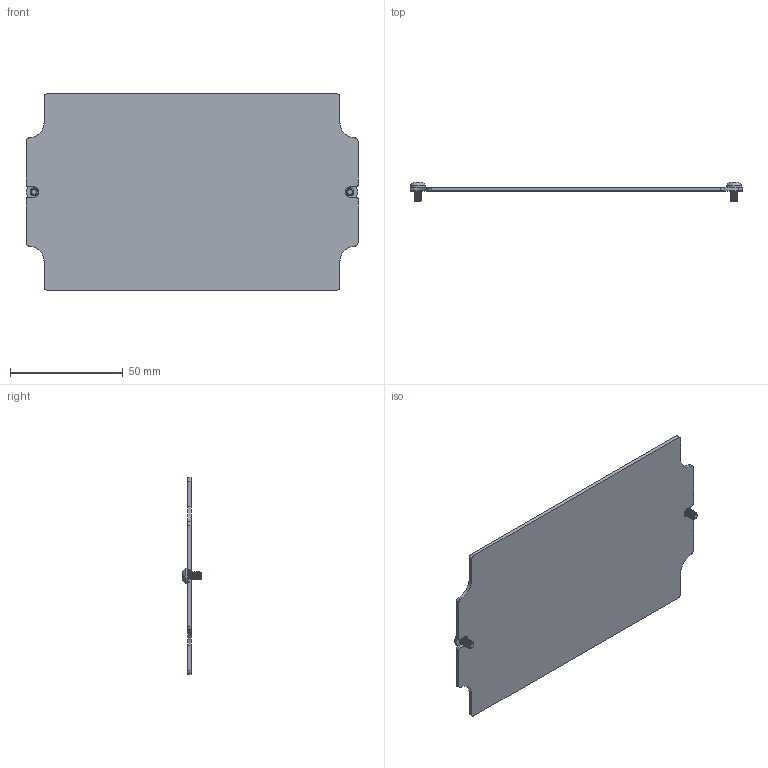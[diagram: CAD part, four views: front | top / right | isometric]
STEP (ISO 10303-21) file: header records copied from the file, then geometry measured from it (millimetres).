
FILE_DESCRIPTION (( 'STEP AP214' ), '1' );
FILE_NAME ('AN-16K.step', '2026-09-17T19:30:13', ( '' ), ( '' ), 'SwSTEP 2.0', 'SolidWorks 2026', '' );
FILE_SCHEMA (( 'AUTOMOTIVE_DESIGN' ));
Length unit declared in the file: inch
Products named in the file (3): SCREWS-050; AN-16-P_DEFAULT; AN-16K
Assembly tree (3 placements, depth 2):
  AN-16K
    AN-16-P_DEFAULT
    SCREWS-050  x2
Bounding box: 147 x 8.8 x 87 mm (x, y, z)
Volume: 18732.2 mm3; surface area: 25418.6 mm2
Topology: 3 solids, 3 shells, 704 faces, 1710 edges, 1010 vertices
Faces by surface type: bspline 368, cylinder 174, plane 66, sphere 48, cone 40, torus 8
Entity records: 17500 total; most frequent: CARTESIAN_POINT 10083, ORIENTED_EDGE 1802, DIRECTION 1065, EDGE_CURVE 901, VERTEX_POINT 537, B_SPLINE_CURVE_WITH_KNOTS 415, AXIS2_PLACEMENT_3D 388, EDGE_LOOP 370
